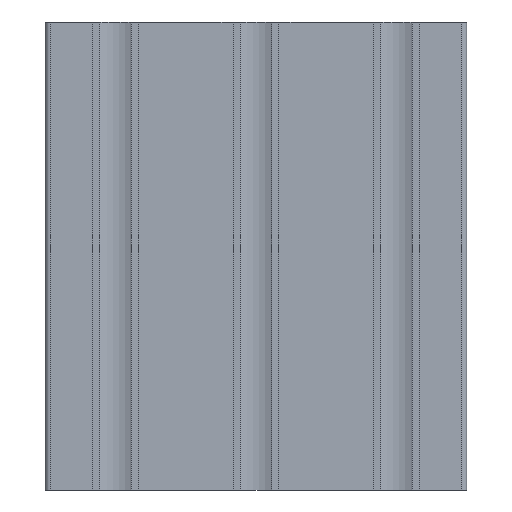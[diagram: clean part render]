
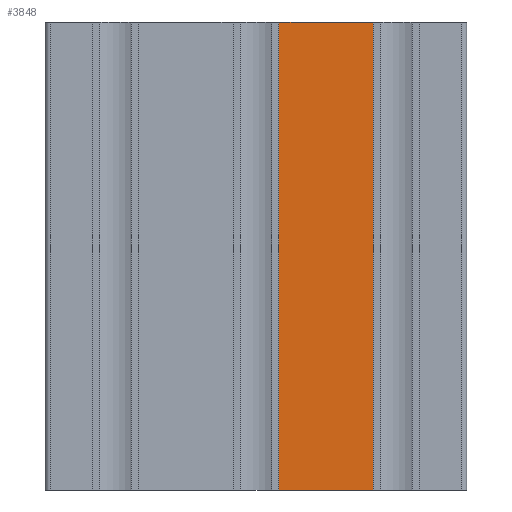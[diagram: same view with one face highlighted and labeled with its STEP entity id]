
A CAD part, front view. The second image highlights one B-rep face of the part: STEP entity #3848.
In plain terms, the highlighted planar face has unit normal (0, -1, 0).
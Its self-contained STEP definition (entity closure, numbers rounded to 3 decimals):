
#142=PLANE('',#4156);
#330=FACE_OUTER_BOUND('',#524,.T.);
#524=EDGE_LOOP('',(#3149,#3150,#3151,#3152));
#938=LINE('',#6226,#1378);
#939=LINE('',#6229,#1379);
#940=LINE('',#6231,#1380);
#941=LINE('',#6232,#1381);
#1378=VECTOR('',#5116,100.);
#1379=VECTOR('',#5119,20.2);
#1380=VECTOR('',#5120,20.2);
#1381=VECTOR('',#5121,100.);
#1895=VERTEX_POINT('',#6222);
#1896=VERTEX_POINT('',#6224);
#1897=VERTEX_POINT('',#6228);
#1898=VERTEX_POINT('',#6230);
#2430=EDGE_CURVE('',#1895,#1896,#938,.T.);
#2431=EDGE_CURVE('',#1897,#1895,#939,.T.);
#2432=EDGE_CURVE('',#1898,#1896,#940,.T.);
#2433=EDGE_CURVE('',#1897,#1898,#941,.T.);
#3149=ORIENTED_EDGE('',*,*,#2431,.T.);
#3150=ORIENTED_EDGE('',*,*,#2430,.T.);
#3151=ORIENTED_EDGE('',*,*,#2432,.F.);
#3152=ORIENTED_EDGE('',*,*,#2433,.F.);
#3848=ADVANCED_FACE('',(#330),#142,.T.);
#4156=AXIS2_PLACEMENT_3D('',#6227,#5117,#5118);
#5116=DIRECTION('',(0.,0.,1.));
#5117=DIRECTION('center_axis',(0.,-1.,0.));
#5118=DIRECTION('ref_axis',(1.,0.,0.));
#5119=DIRECTION('',(1.,0.,0.));
#5120=DIRECTION('',(1.,0.,0.));
#5121=DIRECTION('',(0.,0.,1.));
#6222=CARTESIAN_POINT('',(27.529,-16.405,0.));
#6224=CARTESIAN_POINT('',(27.529,-16.405,100.));
#6226=CARTESIAN_POINT('',(27.529,-16.405,0.));
#6227=CARTESIAN_POINT('Origin',(7.329,-16.405,0.));
#6228=CARTESIAN_POINT('',(7.329,-16.405,0.));
#6229=CARTESIAN_POINT('',(7.329,-16.405,0.));
#6230=CARTESIAN_POINT('',(7.329,-16.405,100.));
#6231=CARTESIAN_POINT('',(7.329,-16.405,100.));
#6232=CARTESIAN_POINT('',(7.329,-16.405,0.));
